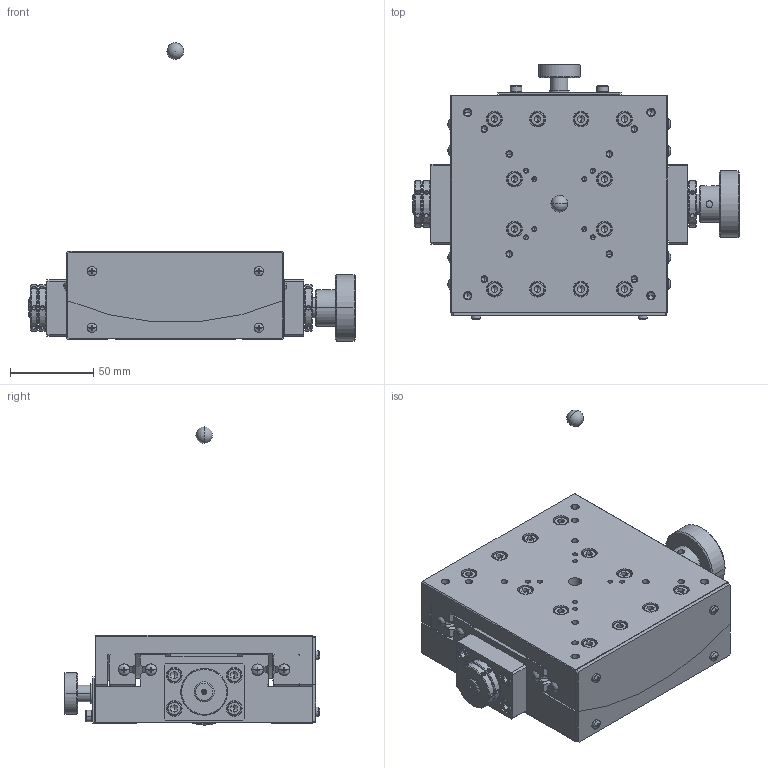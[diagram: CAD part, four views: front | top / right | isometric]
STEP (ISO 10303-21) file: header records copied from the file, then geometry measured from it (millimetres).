
FILE_DESCRIPTION (( 'STEP AP203' ), '1' );
FILE_NAME ('SH13A-RT.STEP', '2010-05-28T00:24:00', ( ' ' ), ( ' ' ), 'SwSTEP 2.0', 'SolidWorks 2009', '' );
FILE_SCHEMA (( 'CONFIG_CONTROL_DESIGN' ));
Length unit declared in the file: millimetre
Products named in the file (4): SH13A-RT; SH13A-RT.sldasm-Part-1; 000190-1021(3D)-2; 000190-1011(3D)-4
Assembly tree (3 placements, depth 2):
  SH13A-RT
    000190-1021(3D)-2
    SH13A-RT.sldasm-Part-1
    000190-1011(3D)-4
Bounding box: 196 x 153.39 x 179 mm (x, y, z)
Volume: 854391.8 mm3; surface area: 187906.4 mm2
Topology: 3 solids, 76 shells, 2323 faces, 5202 edges, 3009 vertices
Faces by surface type: plane 866, cylinder 799, cone 612, sphere 26, torus 20
Entity records: 67446 total; most frequent: CARTESIAN_POINT 15351, DIRECTION 11603, ORIENTED_EDGE 9962, EDGE_CURVE 4981, AXIS2_PLACEMENT_3D 4529, VERTEX_POINT 3006, EDGE_LOOP 2645, LINE 2545
